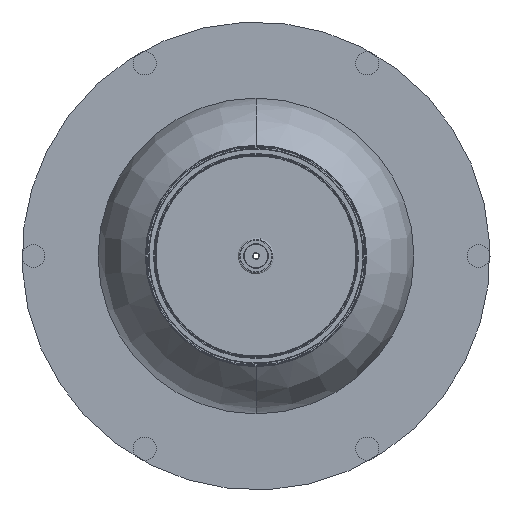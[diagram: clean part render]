
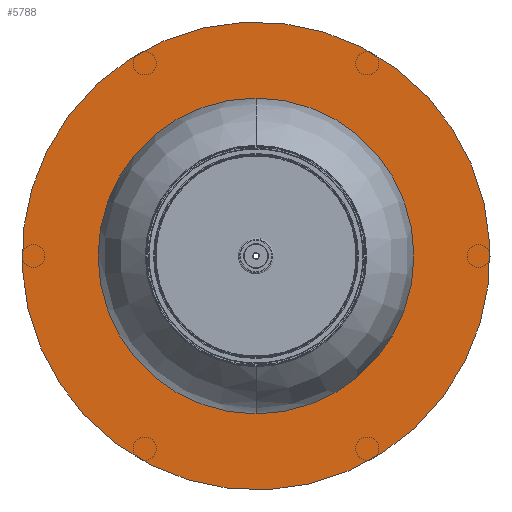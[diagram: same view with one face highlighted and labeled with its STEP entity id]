
A CAD part, front view. The second image highlights one B-rep face of the part: STEP entity #5788.
In plain terms, the highlighted planar face has unit normal (0, -1, 0).
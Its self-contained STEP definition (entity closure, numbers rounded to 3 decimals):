
#5 = EDGE_CURVE ( 'NONE', #4888, #611, #5656, .T. ) ;
#162 = CARTESIAN_POINT ( 'NONE',  ( 0., 0., -100. ) ) ;
#242 = DIRECTION ( 'NONE',  ( 0., 1., 0. ) ) ;
#611 = VERTEX_POINT ( 'NONE', #4019 ) ;
#644 = AXIS2_PLACEMENT_3D ( 'NONE', #6208, #8304, #3464 ) ;
#1417 = FACE_OUTER_BOUND ( 'NONE', #3682, .T. ) ;
#2080 = CIRCLE ( 'NONE', #644, 4.5 ) ;
#2299 = ORIENTED_EDGE ( 'NONE', *, *, #4597, .F. ) ;
#2628 = FACE_BOUND ( 'NONE', #5414, .T. ) ;
#2848 = DIRECTION ( 'NONE',  ( 0., 0., 1. ) ) ;
#3046 = DIRECTION ( 'NONE',  ( 0., 1., 0. ) ) ;
#3309 = CIRCLE ( 'NONE', #11210, 4.5 ) ;
#3390 = EDGE_CURVE ( 'NONE', #4783, #7560, #3309, .T. ) ;
#3464 = DIRECTION ( 'NONE',  ( 0., 0., 1. ) ) ;
#3588 = CARTESIAN_POINT ( 'NONE',  ( 0., 0., 0. ) ) ;
#3682 = EDGE_LOOP ( 'NONE', ( #8936, #2299 ) ) ;
#3991 = ORIENTED_EDGE ( 'NONE', *, *, #3390, .T. ) ;
#4019 = CARTESIAN_POINT ( 'NONE',  ( 0., 0., 100. ) ) ;
#4437 = CARTESIAN_POINT ( 'NONE',  ( 0., 0., 4.5 ) ) ;
#4597 = EDGE_CURVE ( 'NONE', #611, #4888, #10829, .T. ) ;
#4783 = VERTEX_POINT ( 'NONE', #9779 ) ;
#4818 = DIRECTION ( 'NONE',  ( 0., 0., 1. ) ) ;
#4888 = VERTEX_POINT ( 'NONE', #162 ) ;
#5100 = CARTESIAN_POINT ( 'NONE',  ( 0., 0., 0. ) ) ;
#5414 = EDGE_LOOP ( 'NONE', ( #12489, #3991 ) ) ;
#5656 = CIRCLE ( 'NONE', #11345, 100. ) ;
#5788 = ADVANCED_FACE ( 'NONE', ( #2628, #1417 ), #12293, .F. ) ;
#6175 = AXIS2_PLACEMENT_3D ( 'NONE', #3588, #11207, #7321 ) ;
#6208 = CARTESIAN_POINT ( 'NONE',  ( 0., 0., 0. ) ) ;
#7321 = DIRECTION ( 'NONE',  ( 0., 0., 1. ) ) ;
#7560 = VERTEX_POINT ( 'NONE', #4437 ) ;
#7917 = CARTESIAN_POINT ( 'NONE',  ( 0., 0., 0. ) ) ;
#8304 = DIRECTION ( 'NONE',  ( 0., 1., 0. ) ) ;
#8936 = ORIENTED_EDGE ( 'NONE', *, *, #5, .F. ) ;
#9539 = DIRECTION ( 'NONE',  ( 0., 0., 1. ) ) ;
#9779 = CARTESIAN_POINT ( 'NONE',  ( 0., 0., -4.5 ) ) ;
#9828 = DIRECTION ( 'NONE',  ( 0., 1., 0. ) ) ;
#10499 = CARTESIAN_POINT ( 'NONE',  ( 0., 0., 0. ) ) ;
#10829 = CIRCLE ( 'NONE', #12046, 100. ) ;
#11207 = DIRECTION ( 'NONE',  ( 0., 1., 0. ) ) ;
#11210 = AXIS2_PLACEMENT_3D ( 'NONE', #5100, #242, #2848 ) ;
#11345 = AXIS2_PLACEMENT_3D ( 'NONE', #10499, #3046, #9539 ) ;
#11603 = EDGE_CURVE ( 'NONE', #7560, #4783, #2080, .T. ) ;
#12046 = AXIS2_PLACEMENT_3D ( 'NONE', #7917, #9828, #4818 ) ;
#12293 = PLANE ( 'NONE',  #6175 ) ;
#12489 = ORIENTED_EDGE ( 'NONE', *, *, #11603, .T. ) ;
